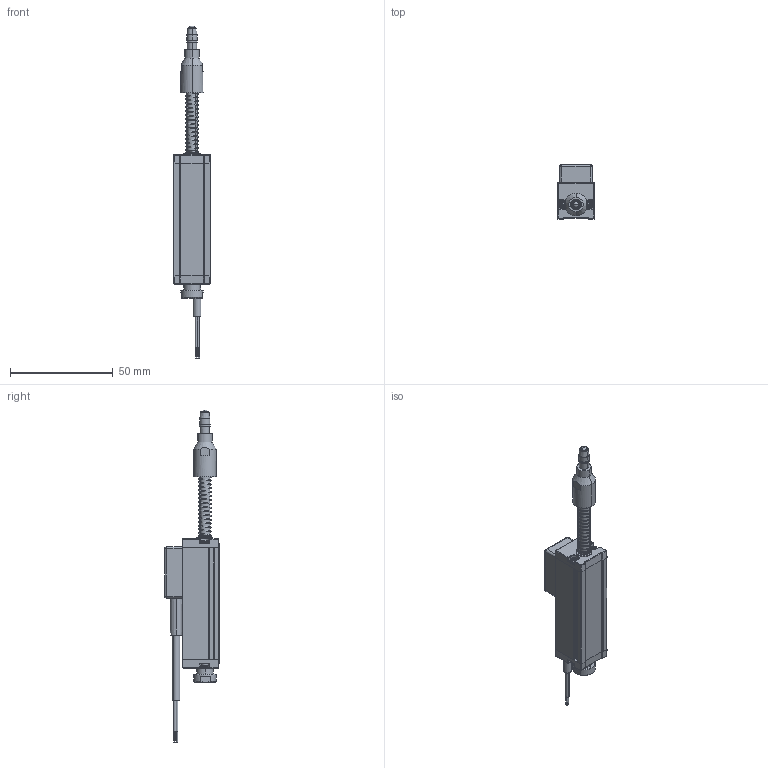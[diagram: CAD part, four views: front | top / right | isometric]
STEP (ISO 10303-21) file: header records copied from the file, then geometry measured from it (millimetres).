
FILE_DESCRIPTION (( 'STEP AP214' ), '1' );
FILE_NAME ('18FLPCW25RE.STEP', '2017-01-27T05:36:48', ( '' ), ( '' ), 'SwSTEP 2.0', 'SolidWorks 2016', '' );
FILE_SCHEMA (( 'AUTOMOTIVE_DESIGN' ));
Length unit declared in the file: millimetre
Products named in the file (2): 18FLPCW25RE^18FLPCW25RE; 18FLPCW25RE
Assembly tree (1 placements, depth 2):
  18FLPCW25RE
    18FLPCW25RE^18FLPCW25RE
Bounding box: 18.02 x 26.51 x 161.58 mm (x, y, z)
Volume: 16252.4 mm3; surface area: 17722.9 mm2
Topology: 3 solids, 7 shells, 933 faces, 2425 edges, 1539 vertices
Faces by surface type: plane 444, cylinder 289, cone 107, torus 55, bspline 24, sphere 14
Entity records: 37536 total; most frequent: CARTESIAN_POINT 14467, DIRECTION 4848, ORIENTED_EDGE 4818, EDGE_CURVE 2409, AXIS2_PLACEMENT_3D 1744, VERTEX_POINT 1539, VECTOR 1360, LINE 1360
